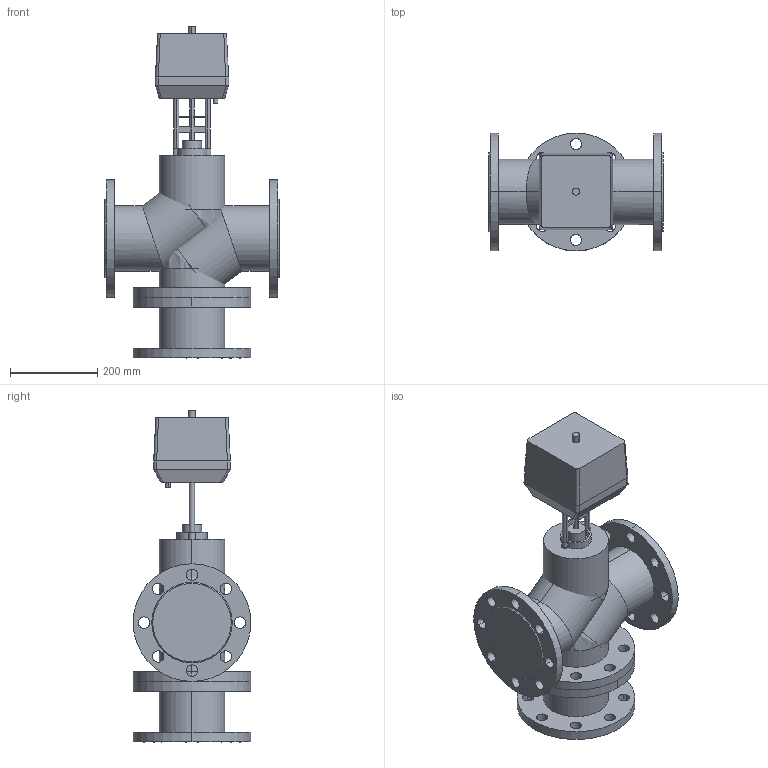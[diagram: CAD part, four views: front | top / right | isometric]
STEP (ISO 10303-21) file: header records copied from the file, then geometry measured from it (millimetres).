
FILE_DESCRIPTION(/* description */ (''),/* implementation_level */ '2;1');
FILE_NAME(/* name */ 'ТРК DN125 PN 2.5 МПа VTM-i 5000H',/* time_stamp */ '2026-07-14T23:21:31+03:00',/* author */ (''),/* organization */ (''),/* preprocessor_version */ 'ST-DEVELOPER v20',/* originating_system */ '',/* authorisation */ '');
FILE_SCHEMA (('AP242_MANAGED_MODEL_BASED_3D_ENGINEERING_MIM_LF { 1 0 10303 442 1 1 4 }'));
Length unit declared in the file: millimetre
Products named in the file (16): TopLevelAssembly; Выдавливание; Модификатор; Модификатор_1; Выдавливание_
1; Выдавливание_
2; Вращение; Выдавливание_
3; Выдавливание_
4; Выдавливание_
5; Выдавливание_
6; Выдавливание_
7; 1600; Переход; Объемная геометрия 
присоединена; Объемная геометрия 
присоединена_1
Assembly tree (15 placements, depth 2):
  TopLevelAssembly
    Выдавливание
    Модификатор
    Модификатор_1
    Выдавливание_
1
    Выдавливание_
2
    Вращение
    Выдавливание_
3
    Выдавливание_
4
    Выдавливание_
5
    Выдавливание_
6
    Выдавливание_
7
    1600
    Переход
    Объемная геометрия 
присоединена
    Объемная геометрия 
присоединена_1
Bounding box: 400 x 270 x 762 mm (x, y, z)
Volume: 23900245.6 mm3; surface area: 1617494.2 mm2
Topology: 23 solids, 23 shells, 233 faces, 555 edges, 366 vertices
Faces by surface type: cylinder 138, plane 79, bspline 12, cone 4
Entity records: 7809 total; most frequent: CARTESIAN_POINT 1457, DIRECTION 1366, ORIENTED_EDGE 1094, AXIS2_PLACEMENT_3D 567, EDGE_CURVE 547, VERTEX_POINT 366, EDGE_LOOP 329, CIRCLE 307
